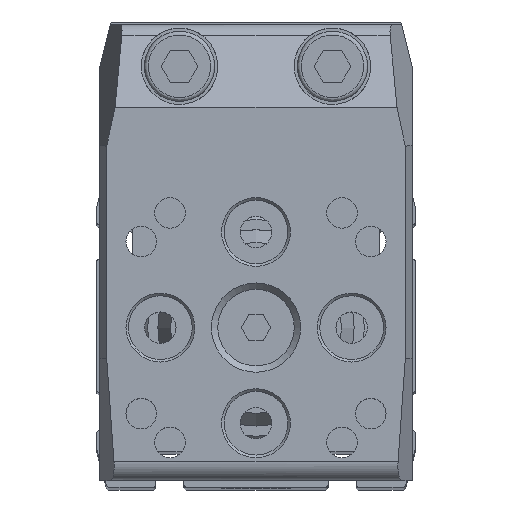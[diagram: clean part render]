
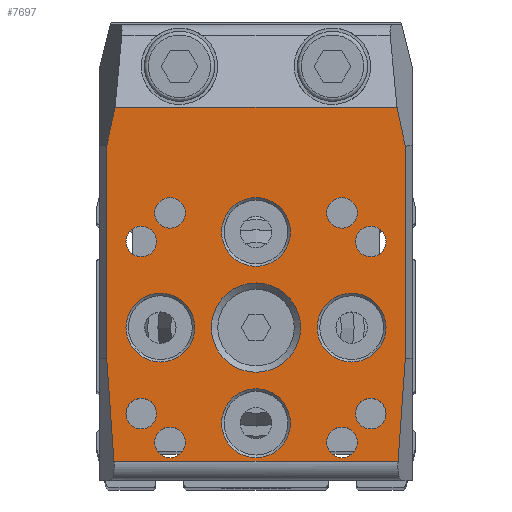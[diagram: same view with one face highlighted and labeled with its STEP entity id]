
A CAD part, top view. The second image highlights one B-rep face of the part: STEP entity #7697.
In plain terms, the highlighted planar face has unit normal (0, 0, 1) as drawn and (-1, 0, 0) by its records, which use the part's own axes.
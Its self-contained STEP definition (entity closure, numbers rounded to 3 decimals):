
#537=LINE('',#13886,#1165);
#538=LINE('',#13889,#1166);
#539=LINE('',#13891,#1167);
#540=LINE('',#13893,#1168);
#541=LINE('',#13895,#1169);
#542=LINE('',#13897,#1170);
#543=LINE('',#13899,#1171);
#544=LINE('',#13901,#1172);
#1165=VECTOR('',#11303,1000.);
#1166=VECTOR('',#11304,1000.);
#1167=VECTOR('',#11305,1000.);
#1168=VECTOR('',#11306,1000.);
#1169=VECTOR('',#11307,1000.);
#1170=VECTOR('',#11308,1000.);
#1171=VECTOR('',#11309,1000.);
#1172=VECTOR('',#11310,1000.);
#3259=ORIENTED_EDGE('',*,*,#4625,.T.);
#3260=ORIENTED_EDGE('',*,*,#4626,.T.);
#3261=ORIENTED_EDGE('',*,*,#4627,.T.);
#3262=ORIENTED_EDGE('',*,*,#4628,.T.);
#3263=ORIENTED_EDGE('',*,*,#4629,.T.);
#3264=ORIENTED_EDGE('',*,*,#4630,.T.);
#3265=ORIENTED_EDGE('',*,*,#4631,.T.);
#3266=ORIENTED_EDGE('',*,*,#4632,.T.);
#3267=ORIENTED_EDGE('',*,*,#4633,.T.);
#3268=ORIENTED_EDGE('',*,*,#4634,.T.);
#3269=ORIENTED_EDGE('',*,*,#4635,.T.);
#3270=ORIENTED_EDGE('',*,*,#4636,.T.);
#3271=ORIENTED_EDGE('',*,*,#4637,.T.);
#3272=ORIENTED_EDGE('',*,*,#4638,.F.);
#3273=ORIENTED_EDGE('',*,*,#4639,.F.);
#3274=ORIENTED_EDGE('',*,*,#4640,.F.);
#3275=ORIENTED_EDGE('',*,*,#4641,.F.);
#3276=ORIENTED_EDGE('',*,*,#4642,.F.);
#3277=ORIENTED_EDGE('',*,*,#4643,.T.);
#3278=ORIENTED_EDGE('',*,*,#4644,.F.);
#3279=ORIENTED_EDGE('',*,*,#4645,.T.);
#4625=EDGE_CURVE('',#5454,#5454,#5925,.T.);
#4626=EDGE_CURVE('',#5455,#5455,#5926,.T.);
#4627=EDGE_CURVE('',#5456,#5456,#5927,.T.);
#4628=EDGE_CURVE('',#5457,#5457,#5928,.T.);
#4629=EDGE_CURVE('',#5458,#5458,#5929,.T.);
#4630=EDGE_CURVE('',#5459,#5459,#5930,.T.);
#4631=EDGE_CURVE('',#5460,#5460,#5931,.T.);
#4632=EDGE_CURVE('',#5461,#5461,#5932,.T.);
#4633=EDGE_CURVE('',#5462,#5462,#5933,.T.);
#4634=EDGE_CURVE('',#5463,#5463,#5934,.T.);
#4635=EDGE_CURVE('',#5464,#5464,#5935,.T.);
#4636=EDGE_CURVE('',#5465,#5465,#5936,.T.);
#4637=EDGE_CURVE('',#5466,#5466,#5937,.T.);
#4638=EDGE_CURVE('',#5467,#5468,#537,.T.);
#4639=EDGE_CURVE('',#5469,#5467,#538,.T.);
#4640=EDGE_CURVE('',#5470,#5469,#539,.T.);
#4641=EDGE_CURVE('',#5471,#5470,#540,.T.);
#4642=EDGE_CURVE('',#5472,#5471,#541,.T.);
#4643=EDGE_CURVE('',#5472,#5473,#542,.T.);
#4644=EDGE_CURVE('',#5474,#5473,#543,.T.);
#4645=EDGE_CURVE('',#5474,#5468,#544,.T.);
#5454=VERTEX_POINT('',#13861);
#5455=VERTEX_POINT('',#13863);
#5456=VERTEX_POINT('',#13865);
#5457=VERTEX_POINT('',#13867);
#5458=VERTEX_POINT('',#13869);
#5459=VERTEX_POINT('',#13871);
#5460=VERTEX_POINT('',#13873);
#5461=VERTEX_POINT('',#13875);
#5462=VERTEX_POINT('',#13877);
#5463=VERTEX_POINT('',#13879);
#5464=VERTEX_POINT('',#13881);
#5465=VERTEX_POINT('',#13883);
#5466=VERTEX_POINT('',#13885);
#5467=VERTEX_POINT('',#13887);
#5468=VERTEX_POINT('',#13888);
#5469=VERTEX_POINT('',#13890);
#5470=VERTEX_POINT('',#13892);
#5471=VERTEX_POINT('',#13894);
#5472=VERTEX_POINT('',#13896);
#5473=VERTEX_POINT('',#13898);
#5474=VERTEX_POINT('',#13900);
#5925=CIRCLE('',#9390,1.2);
#5926=CIRCLE('',#9391,1.2);
#5927=CIRCLE('',#9392,1.2);
#5928=CIRCLE('',#9393,1.2);
#5929=CIRCLE('',#9394,1.2);
#5930=CIRCLE('',#9395,1.2);
#5931=CIRCLE('',#9396,1.2);
#5932=CIRCLE('',#9397,1.2);
#5933=CIRCLE('',#9398,2.7);
#5934=CIRCLE('',#9399,2.7);
#5935=CIRCLE('',#9400,2.7);
#5936=CIRCLE('',#9401,2.7);
#5937=CIRCLE('',#9402,3.5);
#6372=EDGE_LOOP('',(#3259));
#6373=EDGE_LOOP('',(#3260));
#6374=EDGE_LOOP('',(#3261));
#6375=EDGE_LOOP('',(#3262));
#6376=EDGE_LOOP('',(#3263));
#6377=EDGE_LOOP('',(#3264));
#6378=EDGE_LOOP('',(#3265));
#6379=EDGE_LOOP('',(#3266));
#6380=EDGE_LOOP('',(#3267));
#6381=EDGE_LOOP('',(#3268));
#6382=EDGE_LOOP('',(#3269));
#6383=EDGE_LOOP('',(#3270));
#6384=EDGE_LOOP('',(#3271));
#6385=EDGE_LOOP('',(#3272,#3273,#3274,#3275,#3276,#3277,#3278,#3279));
#6948=FACE_BOUND('',#6372,.T.);
#6949=FACE_BOUND('',#6373,.T.);
#6950=FACE_BOUND('',#6374,.T.);
#6951=FACE_BOUND('',#6375,.T.);
#6952=FACE_BOUND('',#6376,.T.);
#6953=FACE_BOUND('',#6377,.T.);
#6954=FACE_BOUND('',#6378,.T.);
#6955=FACE_BOUND('',#6379,.T.);
#6956=FACE_BOUND('',#6380,.T.);
#6957=FACE_BOUND('',#6381,.T.);
#6958=FACE_BOUND('',#6382,.T.);
#6959=FACE_BOUND('',#6383,.T.);
#6960=FACE_BOUND('',#6384,.T.);
#6961=FACE_BOUND('',#6385,.T.);
#7305=PLANE('',#9389);
#7697=ADVANCED_FACE('',(#6948,#6949,#6950,#6951,#6952,#6953,#6954,#6955,
#6956,#6957,#6958,#6959,#6960,#6961),#7305,.F.);
#9389=AXIS2_PLACEMENT_3D('',#13859,#11275,#11276);
#9390=AXIS2_PLACEMENT_3D('',#13860,#11277,#11278);
#9391=AXIS2_PLACEMENT_3D('',#13862,#11279,#11280);
#9392=AXIS2_PLACEMENT_3D('',#13864,#11281,#11282);
#9393=AXIS2_PLACEMENT_3D('',#13866,#11283,#11284);
#9394=AXIS2_PLACEMENT_3D('',#13868,#11285,#11286);
#9395=AXIS2_PLACEMENT_3D('',#13870,#11287,#11288);
#9396=AXIS2_PLACEMENT_3D('',#13872,#11289,#11290);
#9397=AXIS2_PLACEMENT_3D('',#13874,#11291,#11292);
#9398=AXIS2_PLACEMENT_3D('',#13876,#11293,#11294);
#9399=AXIS2_PLACEMENT_3D('',#13878,#11295,#11296);
#9400=AXIS2_PLACEMENT_3D('',#13880,#11297,#11298);
#9401=AXIS2_PLACEMENT_3D('',#13882,#11299,#11300);
#9402=AXIS2_PLACEMENT_3D('',#13884,#11301,#11302);
#11275=DIRECTION('',(1.,0.,0.));
#11276=DIRECTION('',(0.,0.,-1.));
#11277=DIRECTION('',(1.,0.,0.));
#11278=DIRECTION('',(0.,0.,-1.));
#11279=DIRECTION('',(1.,0.,0.));
#11280=DIRECTION('',(0.,0.,-1.));
#11281=DIRECTION('',(1.,0.,0.));
#11282=DIRECTION('',(0.,0.,-1.));
#11283=DIRECTION('',(1.,0.,0.));
#11284=DIRECTION('',(0.,0.,-1.));
#11285=DIRECTION('',(1.,0.,0.));
#11286=DIRECTION('',(0.,0.,-1.));
#11287=DIRECTION('',(1.,0.,0.));
#11288=DIRECTION('',(0.,0.,-1.));
#11289=DIRECTION('',(1.,0.,0.));
#11290=DIRECTION('',(0.,0.,-1.));
#11291=DIRECTION('',(1.,0.,0.));
#11292=DIRECTION('',(0.,0.,-1.));
#11293=DIRECTION('',(1.,0.,0.));
#11294=DIRECTION('',(0.,0.,-1.));
#11295=DIRECTION('',(1.,0.,0.));
#11296=DIRECTION('',(0.,0.,-1.));
#11297=DIRECTION('',(1.,0.,0.));
#11298=DIRECTION('',(0.,0.,-1.));
#11299=DIRECTION('',(1.,0.,0.));
#11300=DIRECTION('',(0.,0.,-1.));
#11301=DIRECTION('',(1.,0.,0.));
#11302=DIRECTION('',(0.,0.,-1.));
#11303=DIRECTION('',(0.,0.998,-0.07));
#11304=DIRECTION('',(0.,0.,-1.));
#11305=DIRECTION('',(0.,-0.998,-0.07));
#11306=DIRECTION('',(0.,-1.,0.));
#11307=DIRECTION('',(0.,-0.978,0.208));
#11308=DIRECTION('',(0.,0.,-1.));
#11309=DIRECTION('',(0.,0.978,0.208));
#11310=DIRECTION('',(0.,-1.,0.));
#13859=CARTESIAN_POINT('',(-6.,17.283,12.25));
#13860=CARTESIAN_POINT('',(-6.,-6.75,9.));
#13861=CARTESIAN_POINT('',(-6.,-6.75,7.8));
#13862=CARTESIAN_POINT('',(-6.,6.75,9.));
#13863=CARTESIAN_POINT('',(-6.,6.75,7.8));
#13864=CARTESIAN_POINT('',(-6.,6.75,-9.));
#13865=CARTESIAN_POINT('',(-6.,6.75,-10.2));
#13866=CARTESIAN_POINT('',(-6.,-6.75,-9.));
#13867=CARTESIAN_POINT('',(-6.,-6.75,-10.2));
#13868=CARTESIAN_POINT('',(-6.,9.,6.75));
#13869=CARTESIAN_POINT('',(-6.,9.,5.55));
#13870=CARTESIAN_POINT('',(-6.,-9.,-6.75));
#13871=CARTESIAN_POINT('',(-6.,-9.,-7.95));
#13872=CARTESIAN_POINT('',(-6.,9.,-6.75));
#13873=CARTESIAN_POINT('',(-6.,9.,-7.95));
#13874=CARTESIAN_POINT('',(-6.,-9.,6.75));
#13875=CARTESIAN_POINT('',(-6.,-9.,5.55));
#13876=CARTESIAN_POINT('',(-6.,0.,-7.5));
#13877=CARTESIAN_POINT('',(-6.,0.,-10.2));
#13878=CARTESIAN_POINT('',(-6.,7.5,0.));
#13879=CARTESIAN_POINT('',(-6.,7.5,-2.7));
#13880=CARTESIAN_POINT('',(-6.,0.,7.5));
#13881=CARTESIAN_POINT('',(-6.,0.,4.8));
#13882=CARTESIAN_POINT('',(-6.,-7.5,0.));
#13883=CARTESIAN_POINT('',(-6.,-7.5,-2.7));
#13884=CARTESIAN_POINT('',(-6.,0.,0.));
#13885=CARTESIAN_POINT('',(-6.,0.,-3.5));
#13886=CARTESIAN_POINT('',(-6.,15.52,-12.964));
#13887=CARTESIAN_POINT('',(-6.,-10.5,-11.144));
#13888=CARTESIAN_POINT('',(-6.,-2.409,-11.71));
#13889=CARTESIAN_POINT('',(-6.,-10.5,12.25));
#13890=CARTESIAN_POINT('',(-6.,-10.5,11.144));
#13891=CARTESIAN_POINT('',(-6.,17.225,13.083));
#13892=CARTESIAN_POINT('',(-6.,-2.409,11.71));
#13893=CARTESIAN_POINT('',(-6.,38.,11.71));
#13894=CARTESIAN_POINT('',(-6.,14.231,11.71));
#13895=CARTESIAN_POINT('',(-6.,17.041,11.113));
#13896=CARTESIAN_POINT('',(-6.,17.283,11.061));
#13897=CARTESIAN_POINT('',(-6.,17.283,12.25));
#13898=CARTESIAN_POINT('',(-6.,17.283,-11.061));
#13899=CARTESIAN_POINT('',(-6.,22.024,-10.054));
#13900=CARTESIAN_POINT('',(-6.,14.231,-11.71));
#13901=CARTESIAN_POINT('',(-6.,38.,-11.71));
